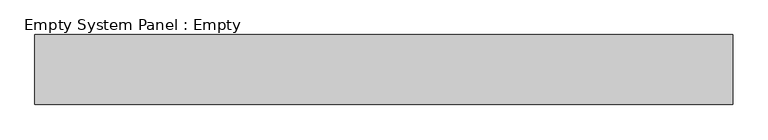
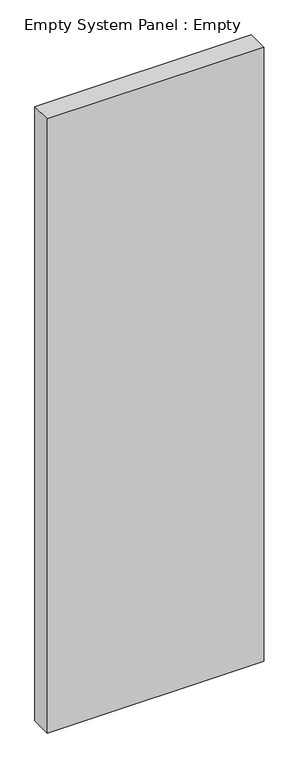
"""IFC4 building model written with IfcOpenShell, lengths in millimetres: plate geometry, Empty System Panel : Empty."""

from ifc_helpers import new_model, si_unit, origin, origin_with_axes, place, context, project, spatial, polyline, outline, extrude, source, transform, mapped, element, save


def empty_system_panel_empty_4f94343c(model_context):
    return source(origin(), model_context, "Body", "SweptSolid", [
        extrude(outline(polyline([(500.0, -150.0), (-500.0, -150.0), (-500.0, -50.0), (500.0, -50.0), (500.0, -150.0)])), origin_with_axes(), (0.0, 0.0, 1.0), 3000.0),
    ])


if __name__ == "__main__":
    model = new_model("IFC4")
    model_context = context("Model", 3, world=origin())
    ifc_project = project(units=[si_unit("LENGTHUNIT", "METRE", prefix="MILLI")], contexts=[model_context])
    site = spatial("IfcSite", under=ifc_project)
    building = spatial("IfcBuilding", under=site)
    placement = place(None, origin())
    empty_system_panel_empty_shape = empty_system_panel_empty_4f94343c(model_context)
    element("IfcPlate", 1, ObjectType="Empty System Panel : Empty", at=placement, inside=building, context=model_context, shape_type="MappedRepresentation", body=[
        mapped(empty_system_panel_empty_shape, transform((0.0, 0.0, 0.0), x_axis=(1.0, 0.0, 0.0), y_axis=(0.0, 1.0, 0.0), z_axis=(0.0, 0.0, 1.0))),
    ])
    save(model, "model.ifc")
